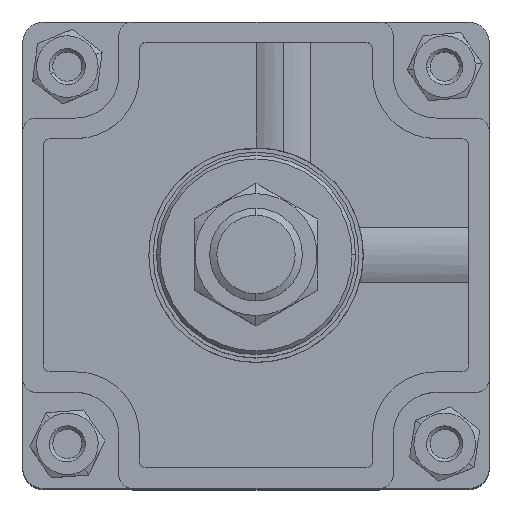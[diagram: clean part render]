
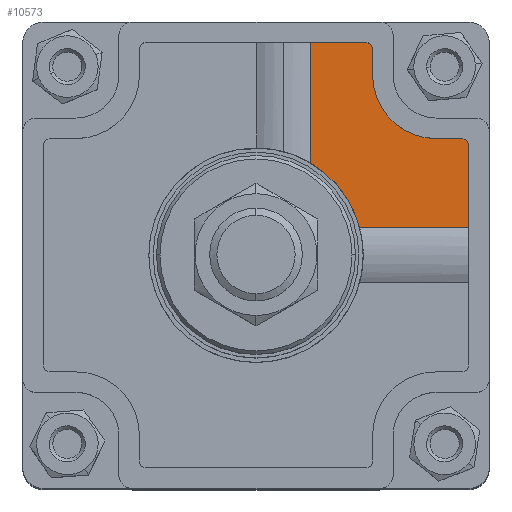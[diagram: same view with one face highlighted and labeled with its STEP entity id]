
A CAD part, top view. The second image highlights one B-rep face of the part: STEP entity #10573.
In plain terms, the highlighted planar face has unit normal (0, 0, 1).
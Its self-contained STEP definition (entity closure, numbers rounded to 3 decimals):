
#83 = CARTESIAN_POINT ( 'NONE',  ( 60., 34., 136. ) ) ;
#304 = DIRECTION ( 'NONE',  ( -1., 0., 0. ) ) ;
#1065 = DIRECTION ( 'NONE',  ( 0., -1., 0. ) ) ;
#1334 = CARTESIAN_POINT ( 'NONE',  ( 34., 60., 136. ) ) ;
#1444 = CARTESIAN_POINT ( 'NONE',  ( 32., 60., 136. ) ) ;
#1803 = LINE ( 'NONE', #21884, #16170 ) ;
#1918 = ORIENTED_EDGE ( 'NONE', *, *, #22088, .T. ) ;
#1981 = EDGE_CURVE ( 'NONE', #14657, #4870, #22749, .T. ) ;
#2369 = AXIS2_PLACEMENT_3D ( 'NONE', #14505, #8895, #12970 ) ;
#2690 = VERTEX_POINT ( 'NONE', #21748 ) ;
#2835 = DIRECTION ( 'NONE',  ( 0., 0., 1. ) ) ;
#3969 = CARTESIAN_POINT ( 'NONE',  ( 52.5, 34., 136. ) ) ;
#4284 = LINE ( 'NONE', #15073, #5166 ) ;
#4453 = ORIENTED_EDGE ( 'NONE', *, *, #24152, .T. ) ;
#4837 = CARTESIAN_POINT ( 'NONE',  ( 32., 62., 136. ) ) ;
#4870 = VERTEX_POINT ( 'NONE', #3969 ) ;
#5166 = VECTOR ( 'NONE', #1065, 1000. ) ;
#5255 = CARTESIAN_POINT ( 'NONE',  ( 34., 52.5, 136. ) ) ;
#5940 = LINE ( 'NONE', #1334, #12693 ) ;
#6041 = CIRCLE ( 'NONE', #2369, 31.25 ) ;
#6466 = VERTEX_POINT ( 'NONE', #23896 ) ;
#6754 = CARTESIAN_POINT ( 'NONE',  ( 15.81, 26.955, 136. ) ) ;
#6865 = CARTESIAN_POINT ( 'NONE',  ( 0., 0., 136. ) ) ;
#6979 = LINE ( 'NONE', #22994, #16120 ) ;
#7152 = ORIENTED_EDGE ( 'NONE', *, *, #11224, .T. ) ;
#7170 = DIRECTION ( 'NONE',  ( 0., 1., 0. ) ) ;
#7266 = LINE ( 'NONE', #9368, #8819 ) ;
#7307 = CIRCLE ( 'NONE', #22577, 2. ) ;
#8131 = DIRECTION ( 'NONE',  ( 0., 0., 1. ) ) ;
#8634 = ORIENTED_EDGE ( 'NONE', *, *, #14221, .T. ) ;
#8819 = VECTOR ( 'NONE', #24671, 1000. ) ;
#8895 = DIRECTION ( 'NONE',  ( 0., 0., -1. ) ) ;
#9311 = ORIENTED_EDGE ( 'NONE', *, *, #1981, .T. ) ;
#9368 = CARTESIAN_POINT ( 'NONE',  ( 62., 32., 136. ) ) ;
#9835 = VERTEX_POINT ( 'NONE', #19320 ) ;
#10098 = EDGE_CURVE ( 'NONE', #22845, #10990, #4284, .T. ) ;
#10573 = ADVANCED_FACE ( 'NONE', ( #19782 ), #16581, .T. ) ;
#10592 = CARTESIAN_POINT ( 'NONE',  ( 15.81, 62., 136. ) ) ;
#10721 = VERTEX_POINT ( 'NONE', #18777 ) ;
#10990 = VERTEX_POINT ( 'NONE', #6754 ) ;
#11224 = EDGE_CURVE ( 'NONE', #9835, #10721, #6979, .T. ) ;
#11316 = DIRECTION ( 'NONE',  ( 1., 0., 0. ) ) ;
#11365 = DIRECTION ( 'NONE',  ( 1., 0., 0. ) ) ;
#11911 = EDGE_LOOP ( 'NONE', ( #16624, #7152, #21426, #1918, #9311, #23557, #8634, #4453, #14884, #16273 ) ) ;
#12140 = CARTESIAN_POINT ( 'NONE',  ( 52.5, 34., 136. ) ) ;
#12234 = EDGE_CURVE ( 'NONE', #10721, #6466, #7266, .T. ) ;
#12693 = VECTOR ( 'NONE', #7170, 1000. ) ;
#12970 = DIRECTION ( 'NONE',  ( -1., 0., 0. ) ) ;
#13008 = VERTEX_POINT ( 'NONE', #5255 ) ;
#14221 = EDGE_CURVE ( 'NONE', #13008, #2690, #5940, .T. ) ;
#14311 = DIRECTION ( 'NONE',  ( 0., 0., 1. ) ) ;
#14505 = CARTESIAN_POINT ( 'NONE',  ( 0., 0., 136. ) ) ;
#14657 = VERTEX_POINT ( 'NONE', #83 ) ;
#14884 = ORIENTED_EDGE ( 'NONE', *, *, #17109, .T. ) ;
#15073 = CARTESIAN_POINT ( 'NONE',  ( 15.81, -68.001, 136. ) ) ;
#16120 = VECTOR ( 'NONE', #11365, 1000. ) ;
#16163 = DIRECTION ( 'NONE',  ( 1., 0., 0. ) ) ;
#16170 = VECTOR ( 'NONE', #304, 1000. ) ;
#16273 = ORIENTED_EDGE ( 'NONE', *, *, #10098, .T. ) ;
#16581 = PLANE ( 'NONE',  #21594 ) ;
#16624 = ORIENTED_EDGE ( 'NONE', *, *, #18618, .T. ) ;
#17109 = EDGE_CURVE ( 'NONE', #21382, #22845, #1803, .T. ) ;
#18199 = VECTOR ( 'NONE', #21798, 1000. ) ;
#18534 = DIRECTION ( 'NONE',  ( 1., 0., 0. ) ) ;
#18618 = EDGE_CURVE ( 'NONE', #10990, #9835, #6041, .T. ) ;
#18777 = CARTESIAN_POINT ( 'NONE',  ( 62., 8., 136. ) ) ;
#19320 = CARTESIAN_POINT ( 'NONE',  ( 30.209, 8., 136. ) ) ;
#19771 = CARTESIAN_POINT ( 'NONE',  ( 60., 32., 136. ) ) ;
#19782 = FACE_OUTER_BOUND ( 'NONE', #11911, .T. ) ;
#19945 = DIRECTION ( 'NONE',  ( 1., 0., 0. ) ) ;
#21056 = EDGE_CURVE ( 'NONE', #13008, #4870, #23592, .T. ) ;
#21382 = VERTEX_POINT ( 'NONE', #4837 ) ;
#21426 = ORIENTED_EDGE ( 'NONE', *, *, #12234, .T. ) ;
#21594 = AXIS2_PLACEMENT_3D ( 'NONE', #6865, #2835, #18534 ) ;
#21748 = CARTESIAN_POINT ( 'NONE',  ( 34., 60., 136. ) ) ;
#21772 = CARTESIAN_POINT ( 'NONE',  ( 52.5, 52.5, 136. ) ) ;
#21798 = DIRECTION ( 'NONE',  ( -1., 0., 0. ) ) ;
#21884 = CARTESIAN_POINT ( 'NONE',  ( -32., 62., 136. ) ) ;
#22088 = EDGE_CURVE ( 'NONE', #6466, #14657, #24147, .T. ) ;
#22577 = AXIS2_PLACEMENT_3D ( 'NONE', #1444, #24990, #11316 ) ;
#22749 = LINE ( 'NONE', #12140, #18199 ) ;
#22845 = VERTEX_POINT ( 'NONE', #10592 ) ;
#22994 = CARTESIAN_POINT ( 'NONE',  ( -68.001, 8., 136. ) ) ;
#23482 = AXIS2_PLACEMENT_3D ( 'NONE', #19771, #8131, #19945 ) ;
#23557 = ORIENTED_EDGE ( 'NONE', *, *, #21056, .F. ) ;
#23592 = CIRCLE ( 'NONE', #24951, 18.5 ) ;
#23896 = CARTESIAN_POINT ( 'NONE',  ( 62., 32., 136. ) ) ;
#24147 = CIRCLE ( 'NONE', #23482, 2. ) ;
#24152 = EDGE_CURVE ( 'NONE', #2690, #21382, #7307, .T. ) ;
#24671 = DIRECTION ( 'NONE',  ( 0., 1., 0. ) ) ;
#24951 = AXIS2_PLACEMENT_3D ( 'NONE', #21772, #14311, #16163 ) ;
#24990 = DIRECTION ( 'NONE',  ( 0., 0., 1. ) ) ;
